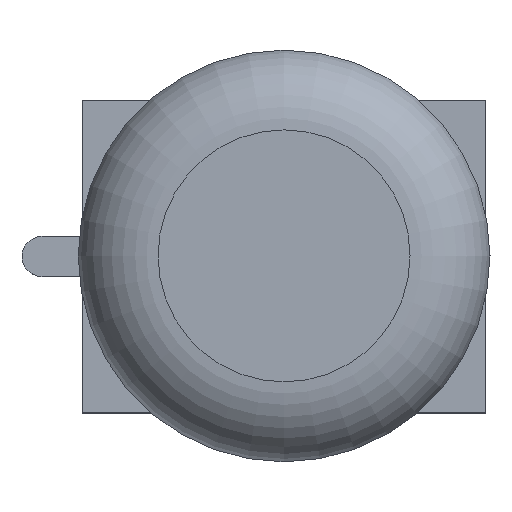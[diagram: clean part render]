
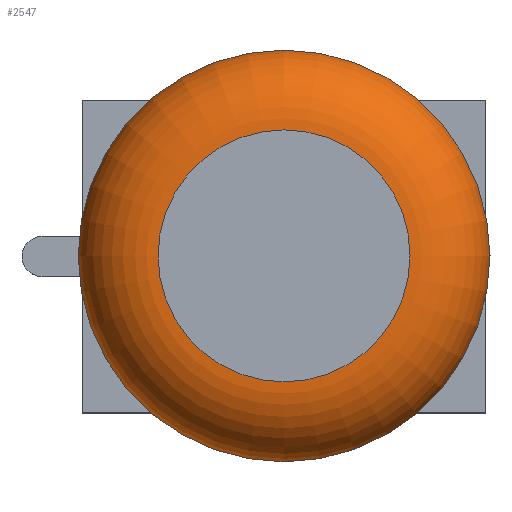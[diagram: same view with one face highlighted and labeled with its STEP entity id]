
A CAD part, top view. The second image highlights one B-rep face of the part: STEP entity #2547.
In plain terms, the highlighted toroidal (fillet/blend) face has major radius 12.5 mm and minor radius 8 mm.
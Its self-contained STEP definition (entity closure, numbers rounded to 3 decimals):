
#14=TOROIDAL_SURFACE('',#2808,12.5,8.);
#52=FACE_BOUND('',#537,.T.);
#172=CIRCLE('',#2805,20.418);
#174=CIRCLE('',#2809,12.5);
#385=FACE_OUTER_BOUND('',#536,.T.);
#536=EDGE_LOOP('',(#2320));
#537=EDGE_LOOP('',(#2321));
#1228=VERTEX_POINT('',#4733);
#1230=VERTEX_POINT('',#4739);
#1592=EDGE_CURVE('',#1228,#1228,#172,.T.);
#1594=EDGE_CURVE('',#1230,#1230,#174,.T.);
#2320=ORIENTED_EDGE('',*,*,#1592,.F.);
#2321=ORIENTED_EDGE('',*,*,#1594,.T.);
#2547=ADVANCED_FACE('',(#385,#52),#14,.T.);
#2805=AXIS2_PLACEMENT_3D('',#4734,#3531,#3532);
#2808=AXIS2_PLACEMENT_3D('',#4738,#3537,#3538);
#2809=AXIS2_PLACEMENT_3D('',#4740,#3539,#3540);
#3531=DIRECTION('center_axis',(0.,0.,-1.));
#3532=DIRECTION('ref_axis',(-1.,0.,0.));
#3537=DIRECTION('center_axis',(0.,0.,1.));
#3538=DIRECTION('ref_axis',(1.,0.,0.));
#3539=DIRECTION('center_axis',(0.,0.,-1.));
#3540=DIRECTION('ref_axis',(-1.,0.,0.));
#4733=CARTESIAN_POINT('',(20.418,0.,68.143));
#4734=CARTESIAN_POINT('Origin',(0.,0.,68.143));
#4738=CARTESIAN_POINT('Origin',(0.,0.,67.));
#4739=CARTESIAN_POINT('',(12.5,0.,75.));
#4740=CARTESIAN_POINT('Origin',(0.,0.,75.));
